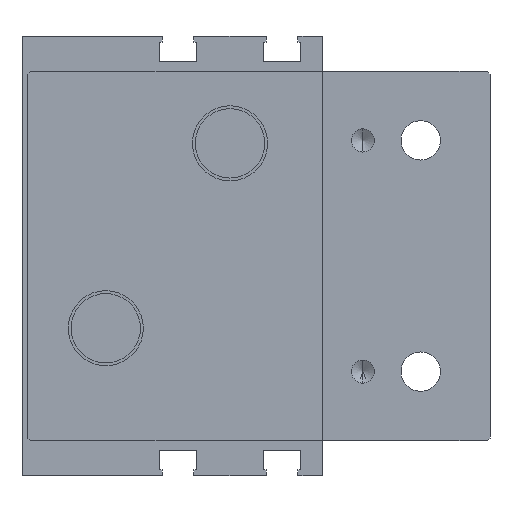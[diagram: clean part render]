
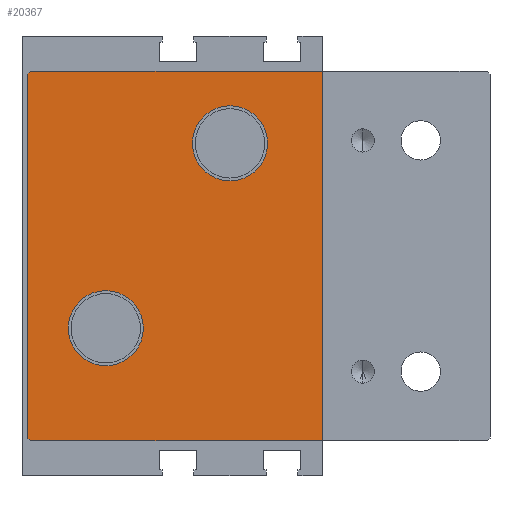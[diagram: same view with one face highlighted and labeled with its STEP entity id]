
A CAD part, left-side view. The second image highlights one B-rep face of the part: STEP entity #20367.
In plain terms, the highlighted planar face has unit normal (-1, 0, 0) as drawn and (1, 0, 0) by its records, which use the part's own axes.
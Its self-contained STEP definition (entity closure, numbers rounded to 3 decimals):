
#124 = VERTEX_POINT ( 'NONE', #41691 ) ;
#233 = CARTESIAN_POINT ( 'NONE',  ( 21., -52., -32. ) ) ;
#551 = ORIENTED_EDGE ( 'NONE', *, *, #29289, .T. ) ;
#668 = CARTESIAN_POINT ( 'NONE',  ( 21., -1.5, -32. ) ) ;
#899 = CARTESIAN_POINT ( 'NONE',  ( 21., -14.5, 19. ) ) ;
#1626 = EDGE_LOOP ( 'NONE', ( #41179, #33913, #2290, #15779, #551, #13736 ) ) ;
#2290 = ORIENTED_EDGE ( 'NONE', *, *, #33851, .T. ) ;
#2411 = CARTESIAN_POINT ( 'NONE',  ( 21., -52., -71.5 ) ) ;
#2414 = VERTEX_POINT ( 'NONE', #39903 ) ;
#2658 = ORIENTED_EDGE ( 'NONE', *, *, #6171, .T. ) ;
#3514 = CARTESIAN_POINT ( 'NONE',  ( 21., -1., -31.5 ) ) ;
#4618 = DIRECTION ( 'NONE',  ( -1., 0., 0. ) ) ;
#4827 = VERTEX_POINT ( 'NONE', #18779 ) ;
#5037 = CARTESIAN_POINT ( 'NONE',  ( 21., -1.5, -32. ) ) ;
#6171 = EDGE_CURVE ( 'NONE', #41514, #2414, #18121, .T. ) ;
#6222 = EDGE_LOOP ( 'NONE', ( #36161, #2658 ) ) ;
#8588 = AXIS2_PLACEMENT_3D ( 'NONE', #18128, #43094, #21730 ) ;
#8848 = ORIENTED_EDGE ( 'NONE', *, *, #39114, .T. ) ;
#9140 = EDGE_CURVE ( 'NONE', #26755, #44670, #27461, .T. ) ;
#9452 = CARTESIAN_POINT ( 'NONE',  ( 21., -14.5, 6. ) ) ;
#9895 = CIRCLE ( 'NONE', #15639, 6.5 ) ;
#9989 = CARTESIAN_POINT ( 'NONE',  ( 21., -14.5, 12.5 ) ) ;
#10127 = VECTOR ( 'NONE', #29959, 1000. ) ;
#10174 = FACE_BOUND ( 'NONE', #6222, .T. ) ;
#10437 = EDGE_CURVE ( 'NONE', #4827, #30817, #20253, .T. ) ;
#10447 = CARTESIAN_POINT ( 'NONE',  ( 21., -1.5, -32. ) ) ;
#10724 = DIRECTION ( 'NONE',  ( 0., 0., 1. ) ) ;
#11854 = CARTESIAN_POINT ( 'NONE',  ( 21., -1., 31.5 ) ) ;
#12077 = CARTESIAN_POINT ( 'NONE',  ( 21., -36., -13. ) ) ;
#12590 = EDGE_CURVE ( 'NONE', #2414, #41514, #9895, .T. ) ;
#13571 = DIRECTION ( 'NONE',  ( 0., 0., -1. ) ) ;
#13736 = ORIENTED_EDGE ( 'NONE', *, *, #29979, .T. ) ;
#13746 = CARTESIAN_POINT ( 'NONE',  ( 21., -1.5, 32. ) ) ;
#13803 = EDGE_LOOP ( 'NONE', ( #28105, #8848 ) ) ;
#13823 = VERTEX_POINT ( 'NONE', #233 ) ;
#14065 = AXIS2_PLACEMENT_3D ( 'NONE', #25953, #4618, #29556 ) ;
#14666 = AXIS2_PLACEMENT_3D ( 'NONE', #20446, #45444, #24043 ) ;
#15639 = AXIS2_PLACEMENT_3D ( 'NONE', #19504, #44454, #23077 ) ;
#15779 = ORIENTED_EDGE ( 'NONE', *, *, #26968, .T. ) ;
#16071 = LINE ( 'NONE', #2411, #35039 ) ;
#17682 = AXIS2_PLACEMENT_3D ( 'NONE', #9989, #34927, #13571 ) ;
#18121 = CIRCLE ( 'NONE', #14065, 6.5 ) ;
#18128 = CARTESIAN_POINT ( 'NONE',  ( 21., -14.5, 12.5 ) ) ;
#18779 = CARTESIAN_POINT ( 'NONE',  ( 21., -1., 31.5 ) ) ;
#19504 = CARTESIAN_POINT ( 'NONE',  ( 21., -36., -19.5 ) ) ;
#20153 = LINE ( 'NONE', #3514, #27358 ) ;
#20253 = LINE ( 'NONE', #11854, #39178 ) ;
#20367 = ADVANCED_FACE ( 'NONE', ( #45928, #26880, #10174 ), #38022, .T. ) ;
#20446 = CARTESIAN_POINT ( 'NONE',  ( 21., -41., -71.5 ) ) ;
#21156 = VERTEX_POINT ( 'NONE', #28033 ) ;
#21730 = DIRECTION ( 'NONE',  ( 0., 0., -1. ) ) ;
#23077 = DIRECTION ( 'NONE',  ( 0., 0., -1. ) ) ;
#23103 = CIRCLE ( 'NONE', #8588, 6.5 ) ;
#24043 = DIRECTION ( 'NONE',  ( 0., 0., -1. ) ) ;
#25554 = LINE ( 'NONE', #10447, #36150 ) ;
#25953 = CARTESIAN_POINT ( 'NONE',  ( 21., -36., -19.5 ) ) ;
#26755 = VERTEX_POINT ( 'NONE', #9452 ) ;
#26880 = FACE_BOUND ( 'NONE', #13803, .T. ) ;
#26968 = EDGE_CURVE ( 'NONE', #13823, #30092, #25554, .T. ) ;
#27358 = VECTOR ( 'NONE', #10724, 1000. ) ;
#27461 = CIRCLE ( 'NONE', #17682, 6.5 ) ;
#28033 = CARTESIAN_POINT ( 'NONE',  ( 21., -52., 32. ) ) ;
#28105 = ORIENTED_EDGE ( 'NONE', *, *, #9140, .T. ) ;
#29069 = LINE ( 'NONE', #5037, #10127 ) ;
#29289 = EDGE_CURVE ( 'NONE', #30092, #124, #29069, .T. ) ;
#29480 = EDGE_CURVE ( 'NONE', #30817, #21156, #45880, .T. ) ;
#29556 = DIRECTION ( 'NONE',  ( 0., 0., -1. ) ) ;
#29959 = DIRECTION ( 'NONE',  ( 0., 0.707, 0.707 ) ) ;
#29979 = EDGE_CURVE ( 'NONE', #124, #4827, #20153, .T. ) ;
#30092 = VERTEX_POINT ( 'NONE', #668 ) ;
#30817 = VERTEX_POINT ( 'NONE', #13746 ) ;
#30976 = DIRECTION ( 'NONE',  ( 0., 0., -1. ) ) ;
#31812 = DIRECTION ( 'NONE',  ( 0., -1., 0. ) ) ;
#33182 = DIRECTION ( 'NONE',  ( 0., -0.707, 0.707 ) ) ;
#33851 = EDGE_CURVE ( 'NONE', #21156, #13823, #16071, .T. ) ;
#33913 = ORIENTED_EDGE ( 'NONE', *, *, #29480, .T. ) ;
#34927 = DIRECTION ( 'NONE',  ( -1., 0., 0. ) ) ;
#35039 = VECTOR ( 'NONE', #30976, 1000. ) ;
#35263 = CARTESIAN_POINT ( 'NONE',  ( 21., -1.5, 32. ) ) ;
#35681 = DIRECTION ( 'NONE',  ( 0., 1., 0. ) ) ;
#36150 = VECTOR ( 'NONE', #35681, 1000. ) ;
#36161 = ORIENTED_EDGE ( 'NONE', *, *, #12590, .T. ) ;
#38022 = PLANE ( 'NONE',  #14666 ) ;
#39114 = EDGE_CURVE ( 'NONE', #44670, #26755, #23103, .T. ) ;
#39178 = VECTOR ( 'NONE', #33182, 1000. ) ;
#39903 = CARTESIAN_POINT ( 'NONE',  ( 21., -36., -26. ) ) ;
#41179 = ORIENTED_EDGE ( 'NONE', *, *, #10437, .T. ) ;
#41514 = VERTEX_POINT ( 'NONE', #12077 ) ;
#41691 = CARTESIAN_POINT ( 'NONE',  ( 21., -1., -31.5 ) ) ;
#43094 = DIRECTION ( 'NONE',  ( -1., 0., 0. ) ) ;
#44454 = DIRECTION ( 'NONE',  ( -1., 0., 0. ) ) ;
#44670 = VERTEX_POINT ( 'NONE', #899 ) ;
#44749 = VECTOR ( 'NONE', #31812, 1000. ) ;
#45444 = DIRECTION ( 'NONE',  ( 1., 0., 0. ) ) ;
#45880 = LINE ( 'NONE', #35263, #44749 ) ;
#45928 = FACE_OUTER_BOUND ( 'NONE', #1626, .T. ) ;
